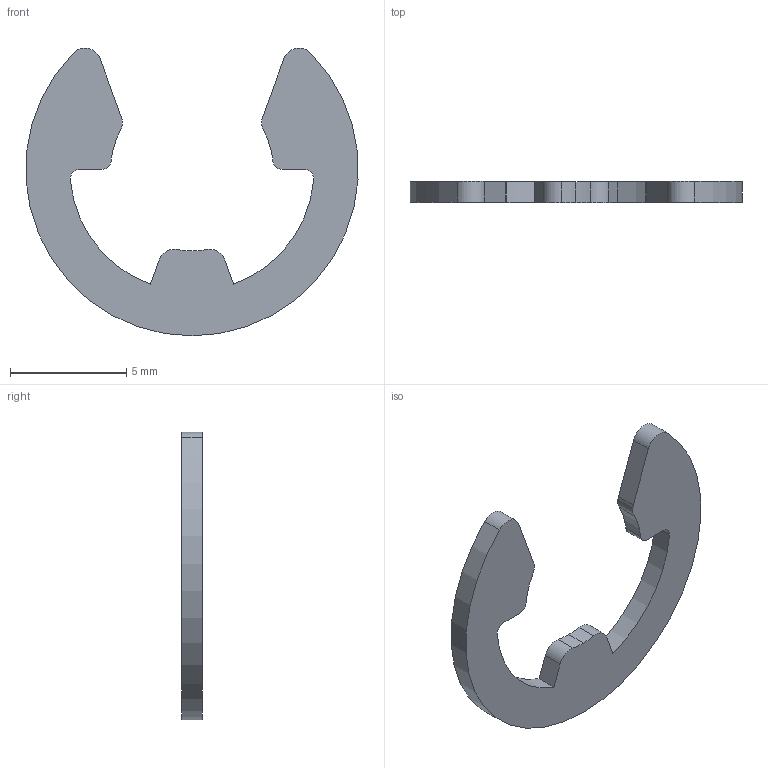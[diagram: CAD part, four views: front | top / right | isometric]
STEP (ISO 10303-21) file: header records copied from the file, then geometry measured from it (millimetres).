
FILE_DESCRIPTION (( 'STEP AP203' ), '1' );
FILE_NAME ('P0382.070-PH.step', '2019-07-25T21:00:34', ( '' ), ( '' ), 'SwSTEP 2.0', 'SolidWorks 2017', '' );
FILE_SCHEMA (( 'CONFIG_CONTROL_DESIGN' ));
Length unit declared in the file: millimetre
Products named in the file (1): P0382.070-PH
Bounding box: 14.27 x 0.9 x 12.36 mm (x, y, z)
Volume: 66.1 mm3; surface area: 207.7 mm2
Topology: 1 solids, 1 shells, 26 faces, 72 edges, 48 vertices
Faces by surface type: cylinder 18, plane 8
Entity records: 929 total; most frequent: DIRECTION 162, CARTESIAN_POINT 147, ORIENTED_EDGE 144, EDGE_CURVE 72, AXIS2_PLACEMENT_3D 63, VERTEX_POINT 48, VECTOR 36, LINE 36
